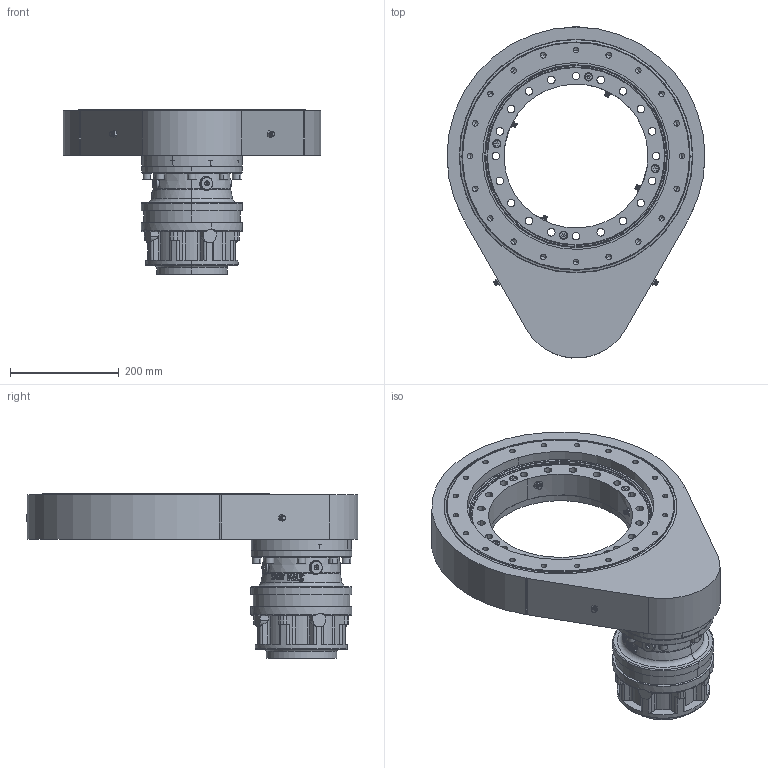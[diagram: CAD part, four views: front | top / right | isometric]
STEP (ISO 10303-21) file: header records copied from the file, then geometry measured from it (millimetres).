
FILE_DESCRIPTION((''),'2;1');
FILE_NAME('RGS20342-K22EA05-001-900_1','2024-12-20T07:33:57',('cobmac0'),('LIEBHERR'),'CREO PARAMETRIC BY PTC INC, 2024133','CREO PARAMETRIC BY PTC INC, 2024133','');
FILE_SCHEMA(('AP242_MANAGED_MODEL_BASED_3D_ENGINEERING_MIM_LF { 1 0 10303 442 1 1 4 }'));
Length unit declared in the file: millimetre
Products named in the file (1): RGS20342-K22EA05-001-900_1
Bounding box: 474.98 x 611.16 x 303.5 mm (x, y, z)
Volume: 16141502.6 mm3; surface area: 787319.1 mm2
Topology: 1 solids, 4 shells, 1026 faces, 2650 edges, 1667 vertices
Faces by surface type: plane 376, cylinder 361, cone 220, torus 69
Entity records: 47248 total; most frequent: CARTESIAN_POINT 9069, ORIENTED_EDGE 5108, DIRECTION 5051, PRESENTATION_STYLE_ASSIGNMENT 3401, STYLED_ITEM 2555, CURVE_STYLE 2554, EDGE_CURVE 2554, AXIS2_PLACEMENT_3D 1964
